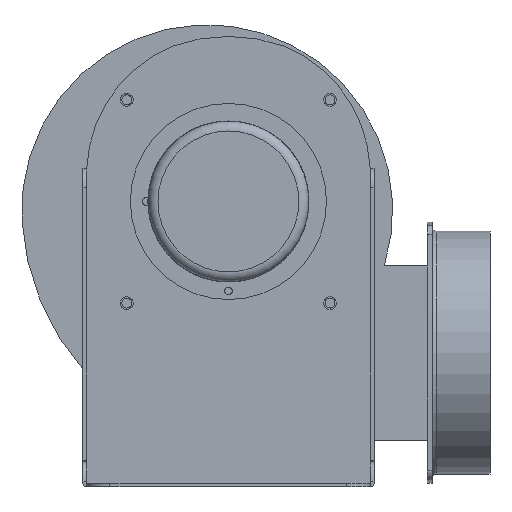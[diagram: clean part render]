
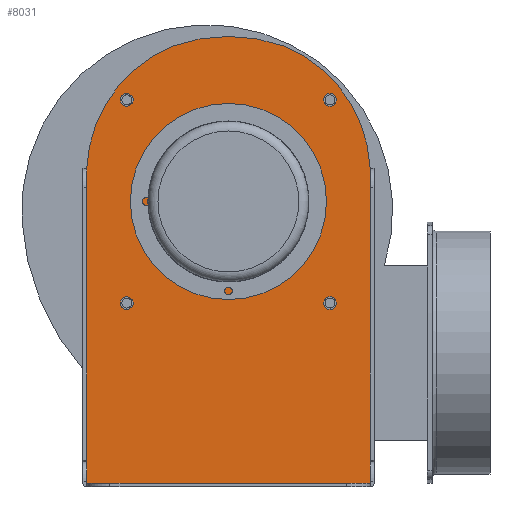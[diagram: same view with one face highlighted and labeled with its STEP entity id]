
A CAD part, left-side view. The second image highlights one B-rep face of the part: STEP entity #8031.
In plain terms, the highlighted planar face has unit normal (-1, 0, 0) as drawn and (0, 0, 1) by its records, which use the part's own axes.
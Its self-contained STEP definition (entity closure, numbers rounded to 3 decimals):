
#68=PLANE('',#8633);
#288=LINE('',#12543,#888);
#293=LINE('',#12556,#893);
#299=LINE('',#12571,#899);
#309=LINE('',#12605,#909);
#313=LINE('',#12636,#913);
#314=LINE('',#12637,#914);
#315=LINE('',#12638,#915);
#888=VECTOR('',#9807,1000.);
#893=VECTOR('',#9816,1000.);
#899=VECTOR('',#9826,1000.);
#909=VECTOR('',#9858,1000.);
#913=VECTOR('',#9896,1000.);
#914=VECTOR('',#9897,1000.);
#915=VECTOR('',#9898,1000.);
#1670=ORIENTED_EDGE('',*,*,#3976,.F.);
#1671=ORIENTED_EDGE('',*,*,#3974,.F.);
#1672=ORIENTED_EDGE('',*,*,#3972,.F.);
#1673=ORIENTED_EDGE('',*,*,#3970,.F.);
#1674=ORIENTED_EDGE('',*,*,#3968,.F.);
#1675=ORIENTED_EDGE('',*,*,#3980,.T.);
#1676=ORIENTED_EDGE('',*,*,#3942,.T.);
#1677=ORIENTED_EDGE('',*,*,#3981,.T.);
#1678=ORIENTED_EDGE('',*,*,#3949,.T.);
#1679=ORIENTED_EDGE('',*,*,#3952,.T.);
#1680=ORIENTED_EDGE('',*,*,#3955,.T.);
#1681=ORIENTED_EDGE('',*,*,#3958,.T.);
#1682=ORIENTED_EDGE('',*,*,#3966,.T.);
#1683=ORIENTED_EDGE('',*,*,#3982,.T.);
#1684=ORIENTED_EDGE('',*,*,#3936,.T.);
#3936=EDGE_CURVE('',#5122,#5121,#288,.T.);
#3942=EDGE_CURVE('',#5128,#5127,#293,.T.);
#3949=EDGE_CURVE('',#5135,#5134,#299,.T.);
#3952=EDGE_CURVE('',#5134,#5137,#5929,.T.);
#3955=EDGE_CURVE('',#5137,#5139,#5931,.T.);
#3958=EDGE_CURVE('',#5139,#5141,#5933,.T.);
#3966=EDGE_CURVE('',#5141,#5147,#309,.T.);
#3968=EDGE_CURVE('',#5149,#5149,#5937,.T.);
#3970=EDGE_CURVE('',#5151,#5151,#5939,.T.);
#3972=EDGE_CURVE('',#5153,#5153,#5941,.T.);
#3974=EDGE_CURVE('',#5155,#5155,#5943,.T.);
#3976=EDGE_CURVE('',#5157,#5157,#5945,.T.);
#3980=EDGE_CURVE('',#5121,#5128,#313,.T.);
#3981=EDGE_CURVE('',#5127,#5135,#314,.T.);
#3982=EDGE_CURVE('',#5147,#5122,#315,.T.);
#5121=VERTEX_POINT('',#12542);
#5122=VERTEX_POINT('',#12544);
#5127=VERTEX_POINT('',#12555);
#5128=VERTEX_POINT('',#12557);
#5134=VERTEX_POINT('',#12570);
#5135=VERTEX_POINT('',#12572);
#5137=VERTEX_POINT('',#12578);
#5139=VERTEX_POINT('',#12584);
#5141=VERTEX_POINT('',#12590);
#5147=VERTEX_POINT('',#12604);
#5149=VERTEX_POINT('',#12610);
#5151=VERTEX_POINT('',#12615);
#5153=VERTEX_POINT('',#12620);
#5155=VERTEX_POINT('',#12625);
#5157=VERTEX_POINT('',#12630);
#5929=CIRCLE('',#8607,71.521);
#5931=CIRCLE('',#8610,85.);
#5933=CIRCLE('',#8613,71.521);
#5937=CIRCLE('',#8619,3.25);
#5939=CIRCLE('',#8622,10.);
#5941=CIRCLE('',#8625,3.25);
#5943=CIRCLE('',#8628,3.25);
#5945=CIRCLE('',#8631,3.25);
#6575=EDGE_LOOP('',(#1670));
#6576=EDGE_LOOP('',(#1671));
#6577=EDGE_LOOP('',(#1672));
#6578=EDGE_LOOP('',(#1673));
#6579=EDGE_LOOP('',(#1674));
#6580=EDGE_LOOP('',(#1675,#1676,#1677,#1678,#1679,#1680,#1681,#1682,#1683,
#1684));
#7197=FACE_BOUND('',#6575,.T.);
#7198=FACE_BOUND('',#6576,.T.);
#7199=FACE_BOUND('',#6577,.T.);
#7200=FACE_BOUND('',#6578,.T.);
#7201=FACE_BOUND('',#6579,.T.);
#7202=FACE_BOUND('',#6580,.T.);
#8031=ADVANCED_FACE('',(#7197,#7198,#7199,#7200,#7201,#7202),#68,.T.);
#8607=AXIS2_PLACEMENT_3D('',#12577,#9831,#9832);
#8610=AXIS2_PLACEMENT_3D('',#12583,#9838,#9839);
#8613=AXIS2_PLACEMENT_3D('',#12589,#9845,#9846);
#8619=AXIS2_PLACEMENT_3D('',#12609,#9863,#9864);
#8622=AXIS2_PLACEMENT_3D('',#12614,#9869,#9870);
#8625=AXIS2_PLACEMENT_3D('',#12619,#9875,#9876);
#8628=AXIS2_PLACEMENT_3D('',#12624,#9881,#9882);
#8631=AXIS2_PLACEMENT_3D('',#12629,#9887,#9888);
#8633=AXIS2_PLACEMENT_3D('',#12635,#9894,#9895);
#9807=DIRECTION('',(0.,-1.,0.));
#9816=DIRECTION('',(0.,1.,0.));
#9826=DIRECTION('',(-1.,0.,0.));
#9831=DIRECTION('',(0.,0.,1.));
#9832=DIRECTION('',(1.,0.,0.));
#9838=DIRECTION('',(0.,0.,1.));
#9839=DIRECTION('',(1.,0.,0.));
#9845=DIRECTION('',(0.,0.,1.));
#9846=DIRECTION('',(1.,0.,0.));
#9858=DIRECTION('',(-1.,0.,0.));
#9863=DIRECTION('',(0.,0.,1.));
#9864=DIRECTION('',(1.,0.,0.));
#9869=DIRECTION('',(0.,0.,1.));
#9870=DIRECTION('',(1.,0.,0.));
#9875=DIRECTION('',(0.,0.,1.));
#9876=DIRECTION('',(1.,0.,0.));
#9881=DIRECTION('',(0.,0.,1.));
#9882=DIRECTION('',(1.,0.,0.));
#9887=DIRECTION('',(0.,0.,1.));
#9888=DIRECTION('',(1.,0.,0.));
#9894=DIRECTION('',(0.,0.,1.));
#9895=DIRECTION('',(1.,0.,0.));
#9896=DIRECTION('',(1.,0.,0.));
#9897=DIRECTION('',(0.,1.,0.));
#9898=DIRECTION('',(0.,-1.,0.));
#12542=CARTESIAN_POINT('',(600.166,-969.613,0.));
#12543=CARTESIAN_POINT('',(600.166,-969.613,0.));
#12544=CARTESIAN_POINT('',(600.166,-968.763,0.));
#12555=CARTESIAN_POINT('',(746.166,-968.763,0.));
#12556=CARTESIAN_POINT('',(746.166,-957.763,0.));
#12557=CARTESIAN_POINT('',(746.166,-969.613,0.));
#12570=CARTESIAN_POINT('',(746.149,-807.613,0.));
#12571=CARTESIAN_POINT('',(746.149,-807.613,0.));
#12572=CARTESIAN_POINT('',(746.166,-807.613,0.));
#12577=CARTESIAN_POINT('',(674.697,-810.759,0.));
#12578=CARTESIAN_POINT('',(701.973,-744.644,0.));
#12583=CARTESIAN_POINT('',(673.166,-824.613,0.));
#12584=CARTESIAN_POINT('',(644.358,-744.644,0.));
#12589=CARTESIAN_POINT('',(671.634,-810.759,0.));
#12590=CARTESIAN_POINT('',(600.183,-807.613,0.));
#12604=CARTESIAN_POINT('',(600.166,-807.613,0.));
#12605=CARTESIAN_POINT('',(600.183,-807.613,0.));
#12609=CARTESIAN_POINT('',(725.492,-772.287,0.));
#12610=CARTESIAN_POINT('',(728.742,-772.287,0.));
#12614=CARTESIAN_POINT('',(673.166,-824.613,0.));
#12615=CARTESIAN_POINT('',(683.166,-824.613,0.));
#12619=CARTESIAN_POINT('',(620.84,-772.287,0.));
#12620=CARTESIAN_POINT('',(624.09,-772.287,0.));
#12624=CARTESIAN_POINT('',(725.492,-876.939,0.));
#12625=CARTESIAN_POINT('',(728.742,-876.939,0.));
#12629=CARTESIAN_POINT('',(620.84,-876.939,0.));
#12630=CARTESIAN_POINT('',(624.09,-876.939,0.));
#12635=CARTESIAN_POINT('',(674.697,-810.759,0.));
#12636=CARTESIAN_POINT('',(746.166,-969.613,0.));
#12637=CARTESIAN_POINT('',(746.166,-957.763,0.));
#12638=CARTESIAN_POINT('',(600.166,-969.613,0.));
